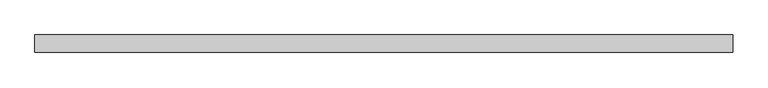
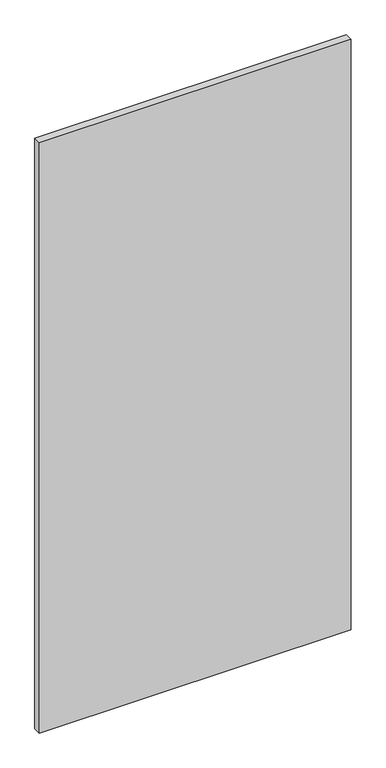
"""IFC4 building model written with IfcOpenShell, lengths in millimetres: plate geometry, Системная панель : С остеклением."""

from ifc_helpers import new_model, si_unit, origin, origin_with_axes, place, context, project, spatial, polyline, outline, extrude, source, transform, mapped, element, save


def plate_846e44f6(model_context):
    return source(origin(), model_context, "Body", "SweptSolid", [
        extrude(outline(polyline([(500.0, 24.5), (-500.0, 24.5), (-500.0, 49.5), (500.0, 49.5), (500.0, 24.5)])), origin_with_axes(), (0.0, 0.0, 1.0), 2000.0),
    ])


if __name__ == "__main__":
    model = new_model("IFC4")
    model_context = context("Model", 3, world=origin())
    ifc_project = project(units=[si_unit("LENGTHUNIT", "METRE", prefix="MILLI")], contexts=[model_context])
    site = spatial("IfcSite", under=ifc_project)
    building = spatial("IfcBuilding", under=site)
    placement = place(None, origin())
    plate_shape = plate_846e44f6(model_context)
    element("IfcPlate", 1, ObjectType="Системная панель : С остеклением", at=placement, inside=building, context=model_context, shape_type="MappedRepresentation", body=[
        mapped(plate_shape, transform((0.0, 0.0, 0.0), x_axis=(1.0, 0.0, 0.0), y_axis=(0.0, 1.0, 0.0), z_axis=(0.0, 0.0, 1.0))),
    ])
    save(model, "model.ifc")
